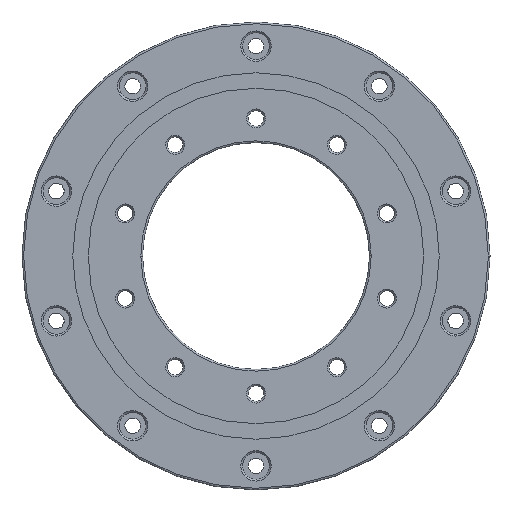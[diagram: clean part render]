
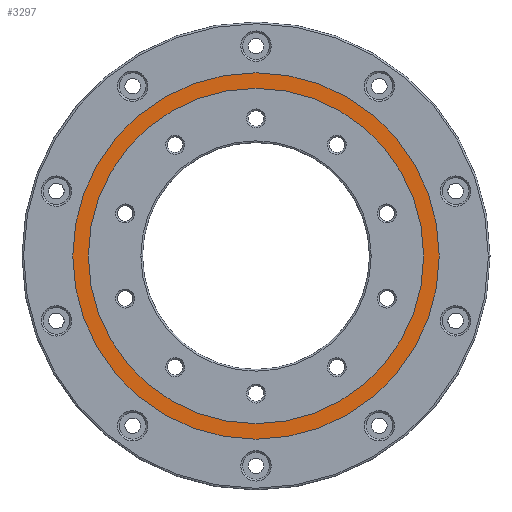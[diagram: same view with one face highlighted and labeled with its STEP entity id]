
A CAD part, front view. The second image highlights one B-rep face of the part: STEP entity #3297.
In plain terms, the highlighted planar face has unit normal (0, -1, 0).
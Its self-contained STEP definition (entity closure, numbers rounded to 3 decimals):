
#2381=EDGE_CURVE('',#4571,#4629,#6590,.T.);
#3297=ADVANCED_FACE('',(#7620,#7621),#7622,.F.);
#3541=EDGE_CURVE('',#5911,#5675,#7891,.T.);
#3953=EDGE_CURVE('',#5675,#5911,#8351,.T.);
#4571=VERTEX_POINT('',#9059);
#4629=VERTEX_POINT('',#9120);
#5543=EDGE_CURVE('',#4629,#4571,#10147,.T.);
#5675=VERTEX_POINT('',#10291);
#5911=VERTEX_POINT('',#10548);
#6590=CIRCLE('',#11348,59.1);
#7620=FACE_OUTER_BOUND('',#12684,.T.);
#7621=FACE_BOUND('',#12685,.T.);
#7622=PLANE('',#12686);
#7891=CIRCLE('',#13029,64.6);
#8351=CIRCLE('',#13645,64.6);
#9059=CARTESIAN_POINT('',(59.1,0.0,0.0));
#9120=CARTESIAN_POINT('',(-59.1,0.0,0.0));
#10147=CIRCLE('',#15945,59.1);
#10291=CARTESIAN_POINT('',(64.6,0.0,0.0));
#10548=CARTESIAN_POINT('',(-64.6,0.0,0.));
#11348=AXIS2_PLACEMENT_3D('',#17384,#17385,#17386);
#12684=EDGE_LOOP('',(#18710,#18711));
#12685=EDGE_LOOP('',(#18712,#18713));
#12686=AXIS2_PLACEMENT_3D('',#18714,#18715,#18716);
#13029=AXIS2_PLACEMENT_3D('',#19071,#19072,#19073);
#13645=AXIS2_PLACEMENT_3D('',#19703,#19704,#19705);
#15945=AXIS2_PLACEMENT_3D('',#22000,#22001,#22002);
#17384=CARTESIAN_POINT('',(0.0,0.0,0.0));
#17385=DIRECTION('',(0.0,-1.0,0.0));
#17386=DIRECTION('',(1.0,0.0,0.0));
#18710=ORIENTED_EDGE('',*,*,#3541,.F.);
#18711=ORIENTED_EDGE('',*,*,#3953,.F.);
#18712=ORIENTED_EDGE('',*,*,#5543,.F.);
#18713=ORIENTED_EDGE('',*,*,#2381,.F.);
#18714=CARTESIAN_POINT('',(0.0,0.0,0.0));
#18715=DIRECTION('',(0.0,1.0,0.0));
#18716=DIRECTION('',(1.0,0.0,-0.0));
#19071=CARTESIAN_POINT('',(0.0,0.0,0.0));
#19072=DIRECTION('',(0.0,1.0,0.0));
#19073=DIRECTION('',(-1.0,0.0,0.0));
#19703=CARTESIAN_POINT('',(0.0,0.0,0.0));
#19704=DIRECTION('',(-0.0,1.0,0.0));
#19705=DIRECTION('',(1.0,0.0,0.0));
#22000=CARTESIAN_POINT('',(0.0,0.0,0.0));
#22001=DIRECTION('',(0.0,-1.0,0.0));
#22002=DIRECTION('',(-1.0,0.0,0.0));
